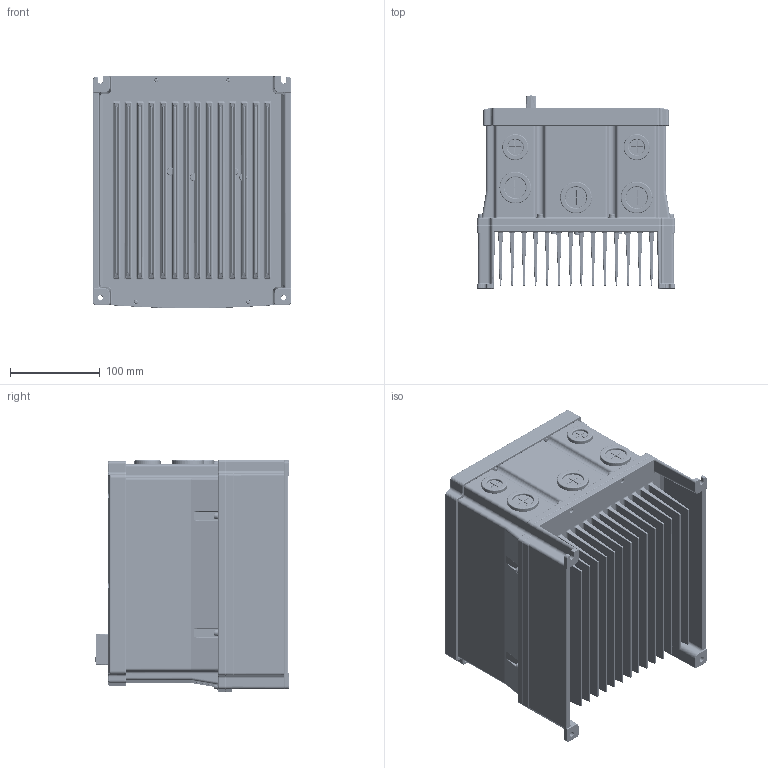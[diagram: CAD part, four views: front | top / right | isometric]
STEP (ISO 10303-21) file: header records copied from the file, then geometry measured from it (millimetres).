
FILE_DESCRIPTION (( 'STEP AP203' ), '1' );
FILE_NAME ('S100_0015-0040_IP66.STEP', '2020-03-30T13:46:09', ( '' ), ( '' ), 'SwSTEP 2.0', 'SolidWorks 2012', '' );
FILE_SCHEMA (( 'CONFIG_CONTROL_DESIGN' ));
Products named in the file (14): s100_ip66_frame_b_asm_min; S100_0015-0040_IP66; TOTAL_IG7_IP66_037_V2_ASM_8_ASM; MANIFOLD_SOLID_BREP_639083; CONDUIT_PACKING-22_3_5_1; M4_L16_SCREW__INST_2_ASM; CONDUIT_PACKING-28_6_6; MANIFOLD_SOLID_BREP_638816; IG7_IP66_037_TOP_COVER_V3_2; IG7-KEYPAD_SHEET-V4_1; IG7_IP66_KNOB_SCREW_V1_1; IG7_IP66_037_MIDDLE_COVER_V3_18; IG7_IP66_037_SWITCH_CORE_V2_D2_; IG7_IP66_037_HEATSINK_V2_4
Assembly tree (28 placements, depth 5):
  S100_0015-0040_IP66
    s100_ip66_frame_b_asm_min
      TOTAL_IG7_IP66_037_V2_ASM_8_ASM
        IG7_IP66_037_HEATSINK_V2_4
        IG7_IP66_037_MIDDLE_COVER_V3_18
        IG7_IP66_037_SWITCH_CORE_V2_D2_
        IG7-KEYPAD_SHEET-V4_1
        IG7_IP66_037_TOP_COVER_V3_2
        IG7_IP66_KNOB_SCREW_V1_1  x6
        M4_L16_SCREW__INST_2_ASM  x8
          MANIFOLD_SOLID_BREP_638816
          MANIFOLD_SOLID_BREP_639083
        CONDUIT_PACKING-22_3_5_1  x2
        CONDUIT_PACKING-28_6_6  x3
Bounding box: 220 x 215 x 258.69 mm (x, y, z)
Volume: 1782426.1 mm3; surface area: 1065176.5 mm2
Topology: 31 solids, 34 shells, 6737 faces, 17048 edges, 10530 vertices
Faces by surface type: cylinder 2418, plane 2261, bspline 1644, cone 409, torus 5
Entity records: 288116 total; most frequent: CARTESIAN_POINT 162550, ORIENTED_EDGE 29757, DIRECTION 19901, EDGE_CURVE 14879, VERTEX_POINT 9204, AXIS2_PLACEMENT_3D 7036, EDGE_LOOP 6218, FACE_OUTER_BOUND 5901
